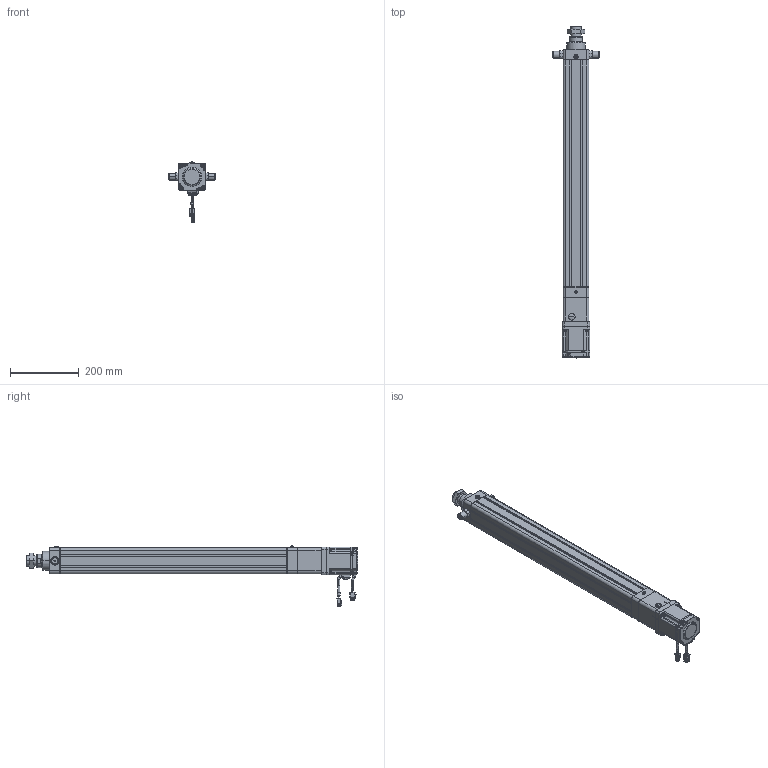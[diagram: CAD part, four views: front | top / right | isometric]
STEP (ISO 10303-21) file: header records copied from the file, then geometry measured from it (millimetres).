
FILE_DESCRIPTION((''),'2;1');
FILE_NAME('HE63-D-100-X1_ASM','2020-05-15T',('ASUS20200'),(''),'CREO PARAMETRIC BY PTC INC, 2014190','CREO PARAMETRIC BY PTC INC, 2014190','');
FILE_SCHEMA(('CONFIG_CONTROL_DESIGN'));
Length unit declared in the file: millimetre
Products named in the file (27): HE63-D-P-001-X1; HE63-D-P-002-X1; HE63-D-P-003-X1; LGLM-M8-22; HE63-D-009-X1; HE63-D-010-X1; M6X16; _MHMF082L1A2; _CABLE_MOTOR_BOTTOM_05; _CABLE_MOTOR_TOP_05; _MOTOR_CONNECTOR_2; _CABLE_BRAKE_BOTTOM_05; _CABLE_BRAKE_TOP_05; _MHMF_CONNECTOR_9_PIN_A6; MHMF082L1A2M2_1_ASM; SLM-01; YZ-M6X1; SKT-16; TD-6; JDB405030; JX6X6X25; HE63-D-P-005-X1; HE63-D-P-004-X1; HE63-D-P-008-X1; M6X25; HE63-TC; HE63-D-100-X1_ASM
Assembly tree (43 placements, depth 3):
  HE63-D-100-X1_ASM
    HE63-D-P-001-X1
    HE63-D-P-002-X1
    HE63-D-P-003-X1
    LGLM-M8-22  x8
    HE63-D-009-X1
    HE63-D-010-X1
    M6X16  x4
    MHMF082L1A2M2_1_ASM
      _MHMF082L1A2
      _CABLE_MOTOR_BOTTOM_05
      _CABLE_MOTOR_TOP_05
      _MOTOR_CONNECTOR_2
      _CABLE_BRAKE_BOTTOM_05
      _CABLE_BRAKE_TOP_05
      _MHMF_CONNECTOR_9_PIN_A6
    SLM-01
    YZ-M6X1
    SKT-16
    TD-6  x4
    JDB405030
    JX6X6X25
    HE63-D-P-005-X1
    HE63-D-P-004-X1
    HE63-D-P-008-X1
    M6X25  x4
    HE63-TC  x2
Bounding box: 135 x 966.9 x 179.15 mm (x, y, z)
Volume: 2602786.6 mm3; surface area: 754098.4 mm2
Topology: 42 solids, 71 shells, 2530 faces, 6219 edges, 3905 vertices
Faces by surface type: plane 1057, cylinder 793, cone 507, torus 126, sphere 44, bspline 3
Entity records: 63632 total; most frequent: CARTESIAN_POINT 12067, DIRECTION 11367, ORIENTED_EDGE 10144, EDGE_CURVE 5125, AXIS2_PLACEMENT_3D 4281, VERTEX_POINT 3251, VECTOR 2805, LINE 2805
